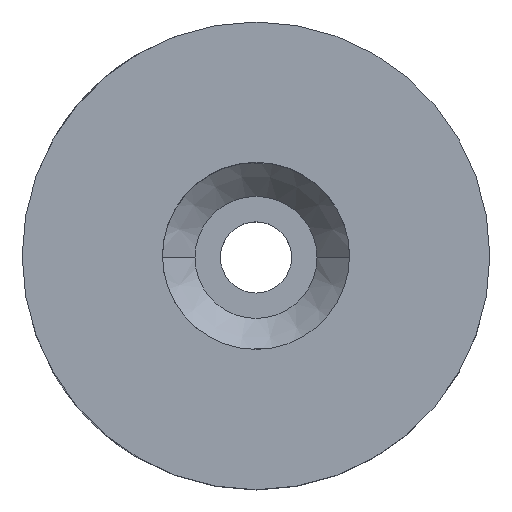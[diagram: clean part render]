
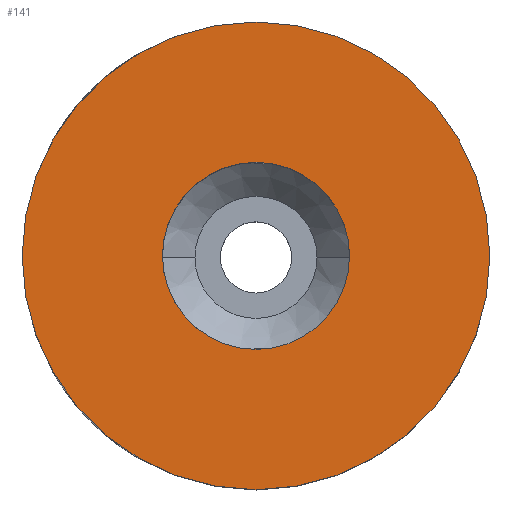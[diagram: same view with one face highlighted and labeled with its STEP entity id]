
A CAD part, top view. The second image highlights one B-rep face of the part: STEP entity #141.
In plain terms, the highlighted planar face has unit normal (0, 0, 1).
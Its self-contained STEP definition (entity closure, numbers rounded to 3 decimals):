
#110=PLANE('',#461);
#118=FACE_BOUND('',#191,.T.);
#119=FACE_BOUND('',#192,.T.);
#141=ADVANCED_FACE('',(#118,#119),#110,.T.);
#191=EDGE_LOOP('',(#273,#274));
#192=EDGE_LOOP('',(#275,#276));
#223=CIRCLE('',#457,11.5);
#224=CIRCLE('',#458,11.5);
#225=CIRCLE('',#459,4.6);
#226=CIRCLE('',#460,4.6);
#273=ORIENTED_EDGE('',*,*,#375,.F.);
#274=ORIENTED_EDGE('',*,*,#376,.F.);
#275=ORIENTED_EDGE('',*,*,#377,.T.);
#276=ORIENTED_EDGE('',*,*,#378,.T.);
#337=VERTEX_POINT('',#630);
#338=VERTEX_POINT('',#631);
#339=VERTEX_POINT('',#634);
#340=VERTEX_POINT('',#635);
#375=EDGE_CURVE('',#337,#338,#223,.T.);
#376=EDGE_CURVE('',#338,#337,#224,.T.);
#377=EDGE_CURVE('',#339,#340,#225,.T.);
#378=EDGE_CURVE('',#340,#339,#226,.T.);
#457=AXIS2_PLACEMENT_3D('',#629,#537,#538);
#458=AXIS2_PLACEMENT_3D('',#632,#539,#540);
#459=AXIS2_PLACEMENT_3D('',#633,#541,#542);
#460=AXIS2_PLACEMENT_3D('',#636,#543,#544);
#461=AXIS2_PLACEMENT_3D('',#637,#545,#546);
#537=DIRECTION('',(0.,0.,-1.));
#538=DIRECTION('',(0.,1.,0.));
#539=DIRECTION('',(0.,0.,-1.));
#540=DIRECTION('',(0.,-1.,0.));
#541=DIRECTION('',(0.,0.,-1.));
#542=DIRECTION('',(0.,-1.,0.));
#543=DIRECTION('',(0.,0.,-1.));
#544=DIRECTION('',(0.,1.,0.));
#545=DIRECTION('',(0.,0.,1.));
#546=DIRECTION('',(0.,-1.,0.));
#629=CARTESIAN_POINT('',(0.,0.,50.));
#630=CARTESIAN_POINT('',(11.5,0.,50.));
#631=CARTESIAN_POINT('',(-11.5,0.,50.));
#632=CARTESIAN_POINT('',(0.,0.,50.));
#633=CARTESIAN_POINT('',(0.,0.,50.));
#634=CARTESIAN_POINT('',(-4.6,0.,50.));
#635=CARTESIAN_POINT('',(4.6,0.,50.));
#636=CARTESIAN_POINT('',(0.,0.,50.));
#637=CARTESIAN_POINT('',(0.,0.,50.));
